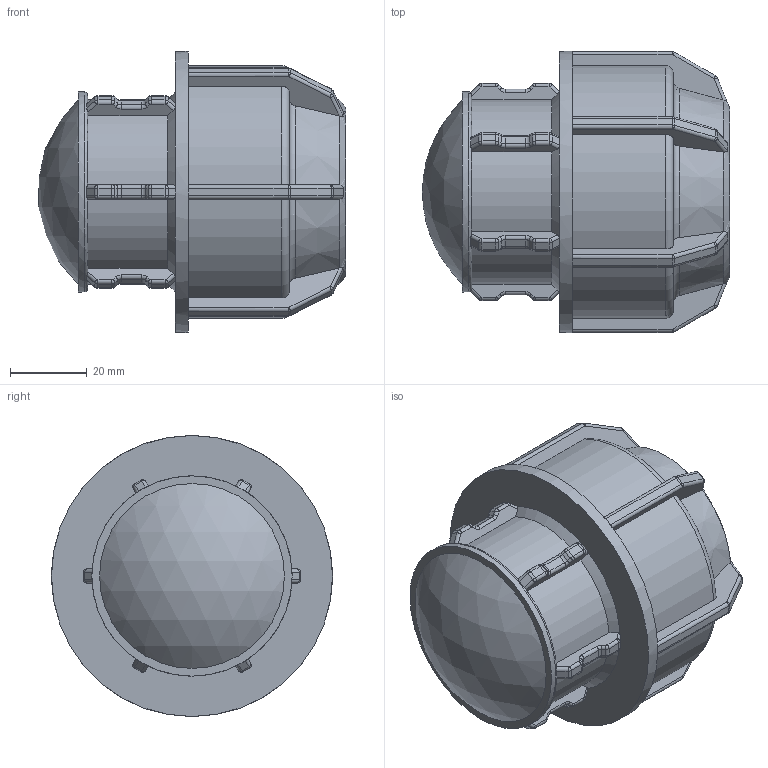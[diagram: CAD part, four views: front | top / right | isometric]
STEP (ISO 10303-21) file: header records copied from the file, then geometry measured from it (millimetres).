
FILE_DESCRIPTION(/* description */ ('PLASSON L.14 END PLUG (SILVER) 40'),/* implementation_level */ '2;1');
FILE_NAME(/* name */ 'C:\Dropbox\KIMPROJECTS-Inventor\99-16-3568-Processing\Silver+MF ISRAEL\141200\141200040.ipt.stp',/* time_stamp */ '2018-04-09T13:04:43+03:00',/* author */ ('KIM'),/* organization */ (''),/* preprocessor_version */ 'ST-DEVELOPER v15.6',/* originating_system */ 'Autodesk Inventor 2015',/* authorisation */ '');
FILE_SCHEMA (('AUTOMOTIVE_DESIGN { 1 0 10303 214 3 1 1 }'));
Length unit declared in the file: millimetre
Products named in the file (1): 141200040
Bounding box: 79.77 x 73 x 73 mm (x, y, z)
Volume: 104960 mm3; surface area: 32382.5 mm2
Topology: 1 solids, 1 shells, 465 faces, 1147 edges, 681 vertices
Faces by surface type: cylinder 184, plane 155, bspline 72, torus 39, cone 13, sphere 2
Full cylindrical faces by diameter (mm): 40 x2, 52 x1, 73 x1
Entity records: 14384 total; most frequent: CARTESIAN_POINT 3765, DIRECTION 2288, ORIENTED_EDGE 2240, EDGE_CURVE 1120, AXIS2_PLACEMENT_3D 919, VERTEX_POINT 670, CIRCLE 502, EDGE_LOOP 476
